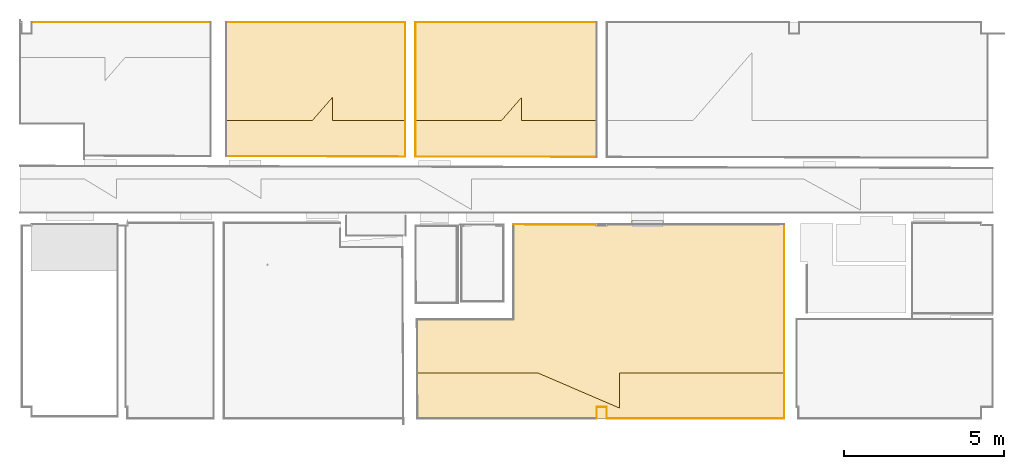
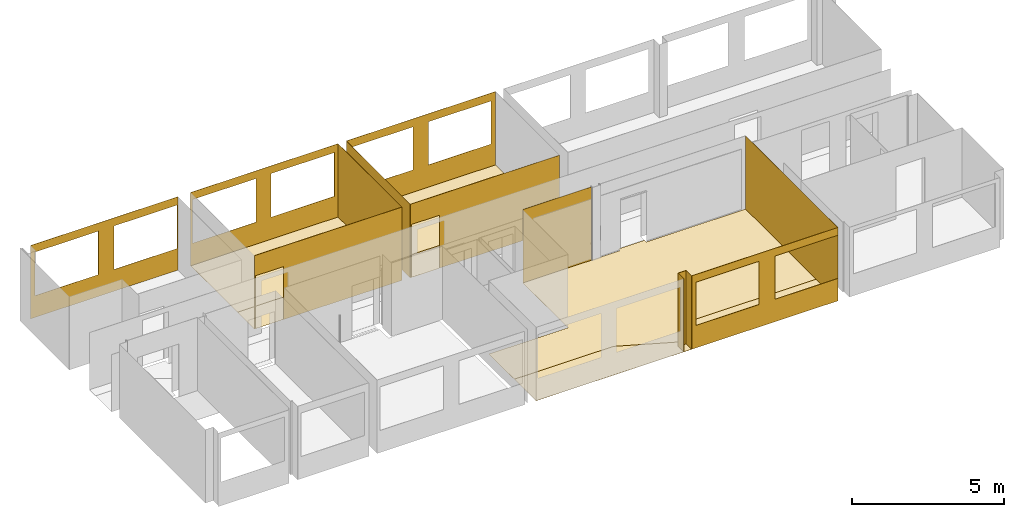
# One storey, part 8 of 16: 19 coverings, 11 openings.
"""IFC2X3 building model written with IfcOpenShell, lengths in millimetres."""

from ifc_helpers import new_model, entity, si_unit, converted_unit, derived_unit, money_unit, direction, frame, origin_with_axes, origin_2d_with_axis, place, context, subcontext, project, spatial, polyline, rectangle, outline, extrude, material, type_object, element, save


model = new_model("IFC2X3")

# Units and contexts
model_context = context("Model", 3, precision=0.01, world=origin_with_axes(), true_north=direction((0.0, 1.0)))
body_context = subcontext(model_context, "Body", "Model", "MODEL_VIEW")
ifc_project = project(units=[si_unit("LENGTHUNIT", "METRE", prefix="MILLI"), si_unit("AREAUNIT", "SQUARE_METRE"), si_unit("VOLUMEUNIT", "CUBIC_METRE"), converted_unit("PLANEANGLEUNIT", "DEGREE", entity("IfcPlaneAngleMeasure", 0.0174532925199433), si_unit("PLANEANGLEUNIT", "RADIAN"), dimensions=[0, 0, 0, 0, 0, 0, 0]), money_unit("EUR"), converted_unit("TIMEUNIT", "Year", entity("IfcTimeMeasure", 31556926.0), si_unit("TIMEUNIT", "SECOND"), dimensions=[0, 0, 1, 0, 0, 0, 0]), si_unit("MASSUNIT", "GRAM", prefix="KILO"), si_unit("THERMODYNAMICTEMPERATUREUNIT", "DEGREE_CELSIUS"), si_unit("LUMINOUSINTENSITYUNIT", "LUMEN"), si_unit("ENERGYUNIT", "JOULE", prefix="MEGA"), derived_unit("THERMALCONDUCTANCEUNIT", [(si_unit("POWERUNIT", "WATT"), 1), (si_unit("LENGTHUNIT", "METRE"), -1), (si_unit("THERMODYNAMICTEMPERATUREUNIT", "KELVIN"), -1)]), derived_unit("SPECIFICHEATCAPACITYUNIT", [(si_unit("ENERGYUNIT", "JOULE"), 1), (si_unit("MASSUNIT", "GRAM", prefix="KILO"), -1), (si_unit("THERMODYNAMICTEMPERATUREUNIT", "KELVIN"), -1)]), derived_unit("MASSDENSITYUNIT", [(si_unit("MASSUNIT", "GRAM", prefix="KILO"), 1), (si_unit("VOLUMEUNIT", "CUBIC_METRE"), -1)])], contexts=[model_context])

# Site, building, storey
site_placement = place(None, origin_with_axes())
site = spatial("IfcSite", under=ifc_project, at=site_placement, Name="Paldiski mnt 245/1, Tallinn, Harjumaa", CompositionType="COMPLEX")
building_placement = place(site_placement, origin_with_axes())
building = spatial("IfcBuilding", under=site, at=building_placement, Name="RKAS Hoone üldnimetus (kasutust iseloomustav) -> IFC Project Manager -> SOLIBRI", CompositionType="ELEMENT")
storey_placement = place(building_placement, frame((0.0, 0.0, 3300.0), z_axis=(0.0, 0.0, 1.0), x_axis=(1.0, 0.0, 0.0)))
storey = spatial("IfcBuildingStorey", under=building, at=storey_placement, Name="Teine korrus", CompositionType="ELEMENT", Elevation=3300.0)

# Coverings
ifc_material_1 = material(Name="SA- PM-2 vinüül hex")
covering_type_1 = type_object("IfcCoveringType", Name="SA- PM-2 vinüül hex 3", PredefinedType="FLOORING")
covering_1_placement = place(storey_placement, frame((-23748.00000483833, -11080.2606968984, 0.0), z_axis=(0.0, 0.0, 1.0), x_axis=(1.0, 0.0, 0.0)))
element("IfcCovering", 1, at=covering_1_placement, inside=storey, type_object=covering_type_1, material=ifc_material_1, Name="PM-2", PredefinedType="FLOORING", context=body_context, shape_type="SweptSolid", body=[
    extrude(outline(polyline([(0.0, 0.0), (4.838245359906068e-06, 4652.260696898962), (-3775.735107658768, 4652.26069689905), (-3775.735107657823, 4765.1766089), (-4775.735107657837, 4765.1766089), (-4775.735107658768, 4652.260696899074), (-8473.98970544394, 4652.260696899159), (-8473.989613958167, 1672.175964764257), (-11489.41200995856, 1672.182379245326), (-11480.83070210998, -6.592869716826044e-05), (-7714.678273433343, -0.0001044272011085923), (-5154.214917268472, -1099.948625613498), (-5154.21490249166, -0.0001228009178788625), (0.0, 0.0)])), origin_with_axes(), (0.0, 0.0, 1.0), 3.0),
])
covering_2_placement = place(storey_placement, frame((-29609.99997418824, -3194.52917966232, 0.0), z_axis=(0.0, 0.0, 1.0), x_axis=(1.0, 0.0, 0.0)))
element("IfcCovering", 2, at=covering_2_placement, inside=storey, type_object=covering_type_1, material=ifc_material_1, Name="PM-2", PredefinedType="FLOORING", context=body_context, shape_type="SweptSolid", body=[
    extrude(outline(polyline([(0.0, 0.0), (-2.922141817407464e-05, 3084.529169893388), (-5674.015341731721, 3084.529179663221), (-5674.015326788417, -8.666041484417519e-05), (-2989.999031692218, -3.212464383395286e-05), (-2354.888838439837, 730.2050801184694), (-2354.888872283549, 3.704293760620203e-06), (0.0, 0.0)])), origin_with_axes(), (0.0, 0.0, 1.0), 3.0),
])
covering_3_placement = place(storey_placement, frame((-35596.01528459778, -3194.529179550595, 0.0), z_axis=(0.0, 0.0, 1.0), x_axis=(1.0, 0.0, 0.0)))
element("IfcCovering", 3, at=covering_3_placement, inside=storey, type_object=covering_type_1, material=ifc_material_1, Name="PM-2", PredefinedType="FLOORING", context=body_context, shape_type="SweptSolid", body=[
    extrude(outline(polyline([(0.0, 0.0), (-2.922138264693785e-05, 3084.529169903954), (-5602.984715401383, 3084.529179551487), (-5602.984700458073, -8.677215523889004e-05), (-2918.968405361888, -3.223637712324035e-05), (-2283.858257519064, 730.0133349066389), (-2283.858245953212, 3.592560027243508e-06), (0.0, 0.0)])), origin_with_axes(), (0.0, 0.0, 1.0), 3.0),
])
ifc_material_2 = material(Name="SA- PM-3 vinüül rice")
covering_type_2 = type_object("IfcCoveringType", Name="SA- PM-3 vinüül rice 3", PredefinedType="FLOORING")
covering_4_placement = place(storey_placement, frame((-23747.99999999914, -12510.0843010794, 0.0), z_axis=(0.0, 0.0, 1.0), x_axis=(1.0, 0.0, 0.0)))
element("IfcCovering", 4, at=covering_4_placement, inside=storey, type_object=covering_type_2, material=ifc_material_2, Name="PM-3", PredefinedType="FLOORING", context=body_context, shape_type="SweptSolid", body=[
    extrude(outline(polyline([(0.0, 0.0), (1.903985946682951e-05, 1429.823497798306), (-5154.214907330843, 1429.823481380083), (-5154.214922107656, 329.8749785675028), (-7714.678278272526, 1429.8234997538), (-11480.83070694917, 1429.823538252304), (-11473.49312666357, 3.324709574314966e-05), (0.0, 0.0)])), origin_with_axes(), (0.0, 0.0, 1.0), 3.0),
])
covering_5_placement = place(storey_placement, frame((-29609.99999711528, -3194.529221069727, 0.0), z_axis=(0.0, 0.0, 1.0), x_axis=(1.0, 0.0, 0.0)))
element("IfcCovering", 5, at=covering_5_placement, inside=storey, type_object=covering_type_2, material=ifc_material_2, Name="PM-3", PredefinedType="FLOORING", context=body_context, shape_type="SweptSolid", body=[
    extrude(outline(polyline([(0.0, 0.0), (-2354.888778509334, 1.167416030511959e-05), (-2354.888815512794, 730.2051215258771), (-2989.998882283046, -1.433879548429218e-05), (-5674.015246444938, -1.244286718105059e-05), (-5674.015260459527, -1125.375290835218), (-5575.378609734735, -1125.375290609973), (-5575.400990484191, -1135.362684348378), (-4575.403501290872, -1137.603578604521), (-4575.381120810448, -1127.61630492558), (-1.401424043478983e-05, -1125.347234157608), (0.0, 0.0)])), origin_with_axes(), (0.0, 0.0, 1.0), 3.0),
])
covering_6_placement = place(storey_placement, frame((-38514.98357063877, -3194.529184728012, 0.0), z_axis=(0.0, 0.0, 1.0), x_axis=(1.0, 0.0, 0.0)))
element("IfcCovering", 6, at=covering_6_placement, inside=storey, type_object=covering_type_2, material=ifc_material_2, Name="PM-3", PredefinedType="FLOORING", context=body_context, shape_type="SweptSolid", body=[
    extrude(outline(polyline([(0.0, 0.0), (-2684.016416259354, 0.0), (-2684.016416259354, -1112.087444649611), (-2599.862356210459, -1112.087611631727), (-1599.864828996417, -1114.328428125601), (2918.968267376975, -1124.45405660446), (2918.968267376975, 0.0), (635.1100460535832, 0.0), (635.1100460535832, 730.0133292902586), (0.0, 0.0)])), origin_with_axes(), (0.0, 0.0, 1.0), 3.0),
])
ifc_material_3 = material(Name="SA- Värv SM5(valge)")
covering_type_3 = type_object("IfcCoveringType", Name="SA- Värv SM5(valge) 5", PredefinedType="CLADDING")
covering_7_placement = place(storey_placement, frame((-35284.01531592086, -4319.682934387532, 0.0), z_axis=(0.0, 0.0, 1.0), x_axis=(0.0, 1.0, 0.0)))
element("IfcCovering", 7, at=covering_7_placement, inside=storey, type_object=covering_type_3, material=ifc_material_3, Name="SM5", PredefinedType="CLADDING", context=body_context, shape_type="SweptSolid", body=[
    extrude(outline(polyline([(-0.01120449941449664, -5.000000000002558), (4209.682934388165, -5.000000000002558), (4209.682934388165, 0.0), (0.0, 0.0), (-0.01120449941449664, -5.000000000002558)])), origin_with_axes(), (0.0, 0.0, 1.0), 2950.0),
])

# Covering, openings
covering_8_placement = place(storey_placement, frame((-35284.01531592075, -109.9999999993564, 0.0), z_axis=(0.0, 0.0, 1.0), x_axis=(1.0, 0.0, 0.0)))
covering_8 = element("IfcCovering", 8, at=covering_8_placement, inside=storey, type_object=covering_type_3, material=ifc_material_3, Name="SM5", PredefinedType="CLADDING", context=body_context, shape_type="SweptSolid", body=[
    extrude(outline(polyline([(0.0, -5.000000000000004), (5674.01531592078, -5.000000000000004), (5674.01531592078, 0.0), (0.0, 0.0), (0.0, -5.000000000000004)])), origin_with_axes(), (0.0, 0.0, 1.0), 2950.0),
])
opening_1_placement = place(covering_8_placement, frame((35284.01531592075, 109.9999999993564, -3300.0), z_axis=(0.0, 0.0, 1.0), x_axis=(1.0, 0.0, 0.0)))
element("IfcOpeningElement", 9, at=opening_1_placement, cuts=covering_8, Name="AVA", ObjectType="OPENING", context=body_context, shape_type="SweptSolid", body=[
    extrude(rectangle(XDim=2389.197243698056, YDim=1731.387448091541, at=origin_2d_with_axis()), frame((-33943.88386898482, -119.9999999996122, 5061.577894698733), z_axis=(0.0, -1.0, 0.0), x_axis=(1.0, 0.0, 0.0)), (0.0, 0.0, -1.0), 15.00000000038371),
])
opening_2_placement = place(covering_8_placement, frame((35284.01531592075, 109.9999999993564, -3300.0), z_axis=(0.0, 0.0, 1.0), x_axis=(1.0, 0.0, 0.0)))
element("IfcOpeningElement", 10, at=opening_2_placement, cuts=covering_8, Name="AVA", ObjectType="OPENING", context=body_context, shape_type="SweptSolid", body=[
    extrude(rectangle(XDim=2389.197243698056, YDim=1731.387448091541, at=origin_2d_with_axis()), frame((-30973.0528945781, -119.9999999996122, 5061.577894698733), z_axis=(0.0, -1.0, 0.0), x_axis=(1.0, 0.0, 0.0)), (0.0, 0.0, -1.0), 15.00000000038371),
])

covering_9_placement = place(storey_placement, frame((-41198.99999999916, -109.9999999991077, 0.0), z_axis=(0.0, 0.0, 1.0), x_axis=(1.0, 0.0, 0.0)))
covering_9 = element("IfcCovering", 11, at=covering_9_placement, inside=storey, type_object=covering_type_3, material=ifc_material_3, Name="SM5", PredefinedType="CLADDING", context=body_context, shape_type="SweptSolid", body=[
    extrude(outline(polyline([(0.0, -5.000000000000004), (5602.984684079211, -5.000000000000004), (5602.984684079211, 0.0), (0.0, 0.0), (0.0, -5.000000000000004)])), origin_with_axes(), (0.0, 0.0, 1.0), 2950.0),
])
opening_3_placement = place(covering_9_placement, frame((41198.99999999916, 109.9999999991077, -3300.0), z_axis=(0.0, 0.0, 1.0), x_axis=(1.0, 0.0, 0.0)))
element("IfcOpeningElement", 12, at=opening_3_placement, cuts=covering_9, Name="AVA", ObjectType="OPENING", context=body_context, shape_type="SweptSolid", body=[
    extrude(rectangle(XDim=2416.323148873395, YDim=1755.717601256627, at=origin_2d_with_axis()), frame((-39932.00635435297, -119.9999999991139, 5062.141199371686), z_axis=(0.0, -1.0, 0.0), x_axis=(1.0, 0.0, 0.0)), (0.0, 0.0, -1.0), 15.00000000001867),
])
opening_4_placement = place(covering_9_placement, frame((41198.99999999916, 109.9999999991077, -3300.0), z_axis=(0.0, 0.0, 1.0), x_axis=(1.0, 0.0, 0.0)))
element("IfcOpeningElement", 13, at=opening_4_placement, cuts=covering_9, Name="AVA", ObjectType="OPENING", context=body_context, shape_type="SweptSolid", body=[
    extrude(rectangle(XDim=2398.757697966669, YDim=1755.717601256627, at=origin_2d_with_axis()), frame((-36941.25256342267, -119.9999999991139, 5062.141199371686), z_axis=(0.0, -1.0, 0.0), x_axis=(1.0, 0.0, 0.0)), (0.0, 0.0, -1.0), 15.00000000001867),
])

# Covering
covering_10_placement = place(storey_placement, frame((-35596.01531591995, -109.9999999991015, 0.0), z_axis=(0.0, 0.0, 1.0), x_axis=(0.0, -1.0, 0.0)))
element("IfcCovering", 14, at=covering_10_placement, inside=storey, type_object=covering_type_3, material=ifc_material_3, Name="SM5", PredefinedType="CLADDING", context=body_context, shape_type="SweptSolid", body=[
    extrude(outline(polyline([(2.58640331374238e-10, -5.000000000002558), (4208.972036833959, -5.000000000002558), (4208.98324133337, 0.0), (2.575717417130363e-10, 0.0), (2.58640331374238e-10, -5.000000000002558)])), origin_with_axes(), (0.0, 0.0, 1.0), 2950.0),
])

# Covering, openings
covering_11_placement = place(storey_placement, frame((-47289.99999999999, -109.9999999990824, 0.0), z_axis=(0.0, 0.0, 1.0), x_axis=(1.0, 0.0, 0.0)))
covering_11 = element("IfcCovering", 15, at=covering_11_placement, inside=storey, type_object=covering_type_3, material=ifc_material_3, Name="SM5", PredefinedType="CLADDING", context=body_context, shape_type="SweptSolid", body=[
    extrude(outline(polyline([(0.0, -5.000000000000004), (5609.00000000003, -5.000000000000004), (5609.00000000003, 0.0), (0.0, 0.0), (0.0, -5.000000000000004)])), origin_with_axes(), (0.0, 0.0, 1.0), 2950.0),
])
opening_5_placement = place(covering_11_placement, frame((47289.99999999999, 109.9999999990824, -3300.0), z_axis=(0.0, 0.0, 1.0), x_axis=(1.0, 0.0, 0.0)))
element("IfcOpeningElement", 16, at=opening_5_placement, cuts=covering_11, Name="AVA", ObjectType="OPENING", context=body_context, shape_type="SweptSolid", body=[
    extrude(rectangle(XDim=2408.325268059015, YDim=1750.0, at=origin_2d_with_axis()), frame((-42920.81937886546, -119.9999999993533, 5049.580672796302), z_axis=(0.0, -1.0, 0.0), x_axis=(1.0, 0.0, 0.0)), (0.0, 0.0, -1.0), 15.00000000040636),
])
opening_6_placement = place(covering_11_placement, frame((47289.99999999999, 109.9999999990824, -3300.0), z_axis=(0.0, 0.0, 1.0), x_axis=(1.0, 0.0, 0.0)))
element("IfcOpeningElement", 17, at=opening_6_placement, cuts=covering_11, Name="AVA", ObjectType="OPENING", context=body_context, shape_type="SweptSolid", body=[
    extrude(rectangle(XDim=2408.325268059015, YDim=1750.0, at=origin_2d_with_axis()), frame((-45918.30925974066, -119.9999999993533, 5049.580672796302), z_axis=(0.0, -1.0, 0.0), x_axis=(1.0, 0.0, 0.0)), (0.0, 0.0, -1.0), 15.00000000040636),
])

# Coverings
covering_12_placement = place(storey_placement, frame((-29609.99974077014, -6427.99998958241, 0.0), z_axis=(0.0, 0.0, 1.0), x_axis=(-1.0, -3.988081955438e-09, 0.0)))
element("IfcCovering", 18, at=covering_12_placement, inside=storey, type_object=covering_type_3, material=ifc_material_3, Name="SM5", PredefinedType="CLADDING", context=body_context, shape_type="SweptSolid", body=[
    extrude(outline(polyline([(0.0, 0.0), (2611.989969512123, 0.0), (2611.989969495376, 4.999999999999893), (5.000024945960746, 4.999999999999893), (0.0, 0.0)])), origin_with_axes(), (0.0, 0.0, 1.0), 2950.0),
])
covering_13_placement = place(storey_placement, frame((-23748.00000000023, -12510.08430107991, 0.0), z_axis=(0.0, 0.0, 1.0), x_axis=(0.0, 1.0, 0.0)))
element("IfcCovering", 19, at=covering_13_placement, inside=storey, type_object=covering_type_3, material=ifc_material_3, Name="SM5", PredefinedType="CLADDING", context=body_context, shape_type="SweptSolid", body=[
    extrude(outline(polyline([(0.0, 0.0), (6082.084301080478, 0.0), (6082.084301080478, 4.999999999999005), (0.0, 4.999999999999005), (0.0, 0.0)])), origin_with_axes(), (0.0, 0.0, 1.0), 2950.0),
])

# Covering, openings
covering_14_placement = place(storey_placement, frame((-29310.00000000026, -12510.08408706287, 0.0), z_axis=(0.0, 0.0, 1.0), x_axis=(0.9999999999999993, -3.847843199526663e-08, 0.0)))
covering_14 = element("IfcCovering", 20, at=covering_14_placement, inside=storey, type_object=covering_type_3, material=ifc_material_3, Name="SM5", PredefinedType="CLADDING", context=body_context, shape_type="SweptSolid", body=[
    extrude(outline(polyline([(0.0, 0.0), (5562.00000000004, 0.0), (5562.00000000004, 5.000000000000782), (0.0, 5.000000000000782), (0.0, 0.0)])), origin_with_axes(), (0.0, 0.0, 1.0), 2950.0),
])
opening_7_placement = place(covering_14_placement, frame((29309.99951863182, 12510.0852148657, -3300.0), z_axis=(0.0, 0.0, 1.0), x_axis=(0.9999999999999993, 3.847843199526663e-08, 0.0)))
element("IfcOpeningElement", 21, at=opening_7_placement, cuts=covering_14, Name="AVA", ObjectType="OPENING", context=body_context, shape_type="SweptSolid", body=[
    extrude(rectangle(XDim=2396.667861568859, YDim=1738.654120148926, at=origin_2d_with_axis()), frame((-24951.33398301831, -12515.08451509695, 5070.672939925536), z_axis=(-3.847843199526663e-08, -0.9999999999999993, 0.0), x_axis=(0.9999999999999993, -3.847843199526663e-08, 0.0)), (0.0, 0.0, -1.0), 15.0006420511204),
])
opening_8_placement = place(covering_14_placement, frame((29309.99951863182, 12510.0852148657, -3300.0), z_axis=(0.0, 0.0, 1.0), x_axis=(0.9999999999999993, 3.847843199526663e-08, 0.0)))
element("IfcOpeningElement", 22, at=opening_8_placement, cuts=covering_14, Name="AVA", ObjectType="OPENING", context=body_context, shape_type="SweptSolid", body=[
    extrude(rectangle(XDim=2396.667861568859, YDim=1738.654120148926, at=origin_2d_with_axis()), frame((-27952.25503144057, -12515.08451509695, 5070.672939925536), z_axis=(-3.847843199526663e-08, -0.9999999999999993, 0.0), x_axis=(0.9999999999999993, -3.847843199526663e-08, 0.0)), (0.0, 0.0, -1.0), 15.0006420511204),
])
opening_9_placement = place(covering_14_placement, frame((29309.99951863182, 12510.0852148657, -3300.0), z_axis=(0.0, 0.0, 1.0), x_axis=(0.9999999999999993, 3.847843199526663e-08, 0.0)))
element("IfcOpeningElement", 23, at=opening_9_placement, cuts=covering_14, Name="AVA", ObjectType="OPENING", context=body_context, shape_type="SweptSolid", body=[
    extrude(rectangle(XDim=2396.667861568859, YDim=1738.654120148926, at=origin_2d_with_axis()), frame((-30947.84298641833, -12515.08451509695, 5070.672939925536), z_axis=(-3.847843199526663e-08, -0.9999999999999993, 0.0), x_axis=(0.9999999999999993, -3.847843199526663e-08, 0.0)), (0.0, 0.0, -1.0), 15.0006420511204),
])

# Coverings
covering_15_placement = place(storey_placement, frame((-29310.00000000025, -12150.08408706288, 0.0), z_axis=(0.0, 0.0, 1.0), x_axis=(0.0, -1.0, 0.0)))
element("IfcCovering", 24, at=covering_15_placement, inside=storey, type_object=covering_type_3, material=ifc_material_3, Name="SM5", PredefinedType="CLADDING", context=body_context, shape_type="SweptSolid", body=[
    extrude(outline(polyline([(0.0, 0.0), (360.0002140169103, 0.0), (360.0002140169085, 4.999999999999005), (-5.000000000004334, 4.999999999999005), (0.0, 0.0)])), origin_with_axes(), (0.0, 0.0, 1.0), 2950.0),
])
covering_16_placement = place(storey_placement, frame((-29610.00000000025, -12150.08408706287, 0.0), z_axis=(0.0, 0.0, 1.0), x_axis=(1.0, 0.0, 0.0)))
element("IfcCovering", 25, at=covering_16_placement, inside=storey, type_object=covering_type_3, material=ifc_material_3, Name="SM5", PredefinedType="CLADDING", context=body_context, shape_type="SweptSolid", body=[
    extrude(outline(polyline([(0.0, 0.0), (300.0000000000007, 0.0), (304.9999999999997, 5.000000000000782), (-4.999999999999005, 5.000000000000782), (0.0, 0.0)])), origin_with_axes(), (0.0, 0.0, 1.0), 2950.0),
])
covering_17_placement = place(storey_placement, frame((-29610.00000000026, -12510.08408706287, 0.0), z_axis=(0.0, 0.0, 1.0), x_axis=(0.0, 1.0, 0.0)))
element("IfcCovering", 26, at=covering_17_placement, inside=storey, type_object=covering_type_3, material=ifc_material_3, Name="SM5", PredefinedType="CLADDING", context=body_context, shape_type="SweptSolid", body=[
    extrude(outline(polyline([(-0.0002140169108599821, 0.0), (359.9999999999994, 0.0), (365.000000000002, 4.999999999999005), (-0.0002140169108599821, 4.999999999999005), (-0.0002140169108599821, 0.0)])), origin_with_axes(), (0.0, 0.0, 1.0), 2950.0),
])

# Covering, opening
ifc_material_4 = material(Name="SA- Värv SM6(kollane)")
covering_type_4 = type_object("IfcCoveringType", Name="SA- Värv SM6(kollane) 5", PredefinedType="CLADDING")
covering_18_placement = place(storey_placement, frame((-35284.01531592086, -4319.682934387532, 0.0), z_axis=(0.0, 0.0, 1.0), x_axis=(0.9999974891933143, -0.002240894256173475, 0.0)))
covering_18 = element("IfcCovering", 27, at=covering_18_placement, inside=storey, type_object=covering_type_4, material=ifc_material_4, Name="SM6", PredefinedType="CLADDING", context=body_context, shape_type="SweptSolid", body=[
    extrude(outline(polyline([(0.0, 0.0), (5674.029562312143, 0.0), (5674.018357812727, 4.999999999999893), (-0.01120449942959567, 4.999999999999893), (0.0, 0.0)])), origin_with_axes(), (0.0, 0.0, 1.0), 2950.0),
])
opening_10_placement = place(covering_18_placement, frame((35274.24677190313, 4398.739835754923, -3300.0), z_axis=(0.0, 0.0, 1.0), x_axis=(0.9999974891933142, 0.002240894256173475, 0.0)))
element("IfcOpeningElement", 28, at=opening_10_placement, cuts=covering_18, Name="AVA", ObjectType="OPENING", context=body_context, shape_type="SweptSolid", body=[
    extrude(rectangle(XDim=1064.869506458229, YDim=2125.56298722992, at=origin_2d_with_axis()), frame((-34696.03155598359, -4350.112722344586, 4362.78149361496), z_axis=(-0.002240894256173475, -0.9999974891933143, 0.0), x_axis=(0.9999974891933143, -0.002240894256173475, 0.0)), (0.0, 0.0, -1.0), 53.14479654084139),
])

covering_19_placement = place(storey_placement, frame((-41199.00000000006, -4306.427513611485, 0.0), z_axis=(0.0, 0.0, 1.0), x_axis=(0.9999974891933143, -0.00224089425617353, 0.0)))
covering_19 = element("IfcCovering", 29, at=covering_19_placement, inside=storey, type_object=covering_type_4, material=ifc_material_4, Name="SM6", PredefinedType="CLADDING", context=body_context, shape_type="SweptSolid", body=[
    extrude(outline(polyline([(0.0, 0.0), (5602.998752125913, 0.0), (5602.987547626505, 5.000000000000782), (-0.01120449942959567, 5.000000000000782), (0.0, 0.0)])), origin_with_axes(), (0.0, 0.0, 1.0), 2950.0),
])
opening_11_placement = place(covering_19_placement, frame((41189.24630859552, 4398.739303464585, -3300.0), z_axis=(0.0, 0.0, 1.0), x_axis=(0.9999974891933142, 0.00224089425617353, 0.0)))
element("IfcOpeningElement", 30, at=opening_11_placement, cuts=covering_19, Name="AVA", ObjectType="OPENING", context=body_context, shape_type="SweptSolid", body=[
    extrude(rectangle(XDim=1057.745129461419, YDim=2127.579191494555, at=origin_2d_with_axis()), frame((-40624.38927096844, -4336.538956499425, 4363.789595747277), z_axis=(-0.00224089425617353, -0.9999974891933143, 0.0), x_axis=(0.9999974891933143, -0.00224089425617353, 0.0)), (0.0, 0.0, -1.0), 52.66727773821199),
])

save(model, "model.ifc")
